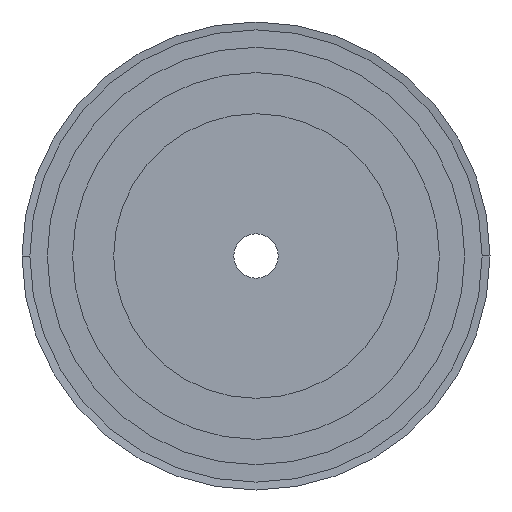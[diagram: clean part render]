
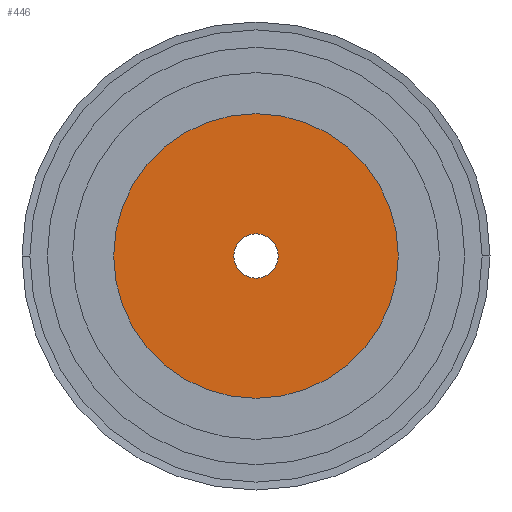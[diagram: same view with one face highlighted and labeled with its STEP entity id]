
A CAD part, left-side view. The second image highlights one B-rep face of the part: STEP entity #446.
In plain terms, the highlighted planar face has unit normal (-1, 0, 0).
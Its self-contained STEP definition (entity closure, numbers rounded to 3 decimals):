
#446 = ADVANCED_FACE( '', ( #1199, #1200 ), #1201, .T. );
#1199 = FACE_BOUND( '', #1953, .T. );
#1200 = FACE_OUTER_BOUND( '', #1954, .T. );
#1201 = PLANE( '', #1955 );
#1953 = EDGE_LOOP( '', ( #5221, #5222 ) );
#1954 = EDGE_LOOP( '', ( #5223, #5224 ) );
#1955 = AXIS2_PLACEMENT_3D( '', #5225, #5226, #5227 );
#5221 = ORIENTED_EDGE( '', *, *, #5279, .T. );
#5222 = ORIENTED_EDGE( '', *, *, #5275, .T. );
#5223 = ORIENTED_EDGE( '', *, *, #5231, .T. );
#5224 = ORIENTED_EDGE( '', *, *, #6305, .T. );
#5225 = CARTESIAN_POINT( '', ( 0., 22.5, 0. ) );
#5226 = DIRECTION( '', ( -1., 0., 0. ) );
#5227 = DIRECTION( '', ( 0., 1., 0. ) );
#5231 = EDGE_CURVE( '', #6307, #6311, #6313, .T. );
#5275 = EDGE_CURVE( '', #6395, #6392, #6396, .T. );
#5279 = EDGE_CURVE( '', #6392, #6395, #6401, .T. );
#6305 = EDGE_CURVE( '', #6311, #6307, #8099, .T. );
#6307 = VERTEX_POINT( '', #8101 );
#6311 = VERTEX_POINT( '', #8106 );
#6313 = CIRCLE( '', #8109, 45. );
#6392 = VERTEX_POINT( '', #8210 );
#6395 = VERTEX_POINT( '', #8214 );
#6396 = CIRCLE( '', #8215, 7. );
#6401 = CIRCLE( '', #8221, 7. );
#8099 = CIRCLE( '', #10479, 45. );
#8101 = CARTESIAN_POINT( '', ( 0., 45., 0. ) );
#8106 = CARTESIAN_POINT( '', ( 0., -45., 0. ) );
#8109 = AXIS2_PLACEMENT_3D( '', #10485, #10486, #10487 );
#8210 = CARTESIAN_POINT( '', ( 0., 7., 0. ) );
#8214 = CARTESIAN_POINT( '', ( 0., -7., 0. ) );
#8215 = AXIS2_PLACEMENT_3D( '', #10571, #10572, #10573 );
#8221 = AXIS2_PLACEMENT_3D( '', #10581, #10582, #10583 );
#10479 = AXIS2_PLACEMENT_3D( '', #12539, #12540, #12541 );
#10485 = CARTESIAN_POINT( '', ( 0., 0., 0. ) );
#10486 = DIRECTION( '', ( -1., 0., 0. ) );
#10487 = DIRECTION( '', ( 0., 1., 0. ) );
#10571 = CARTESIAN_POINT( '', ( 0., 0., 0. ) );
#10572 = DIRECTION( '', ( 1., 0., 0. ) );
#10573 = DIRECTION( '', ( 0., 1., 0. ) );
#10581 = CARTESIAN_POINT( '', ( 0., 0., 0. ) );
#10582 = DIRECTION( '', ( 1., 0., 0. ) );
#10583 = DIRECTION( '', ( 0., 1., 0. ) );
#12539 = CARTESIAN_POINT( '', ( 0., 0., 0. ) );
#12540 = DIRECTION( '', ( -1., 0., 0. ) );
#12541 = DIRECTION( '', ( 0., 1., 0. ) );
